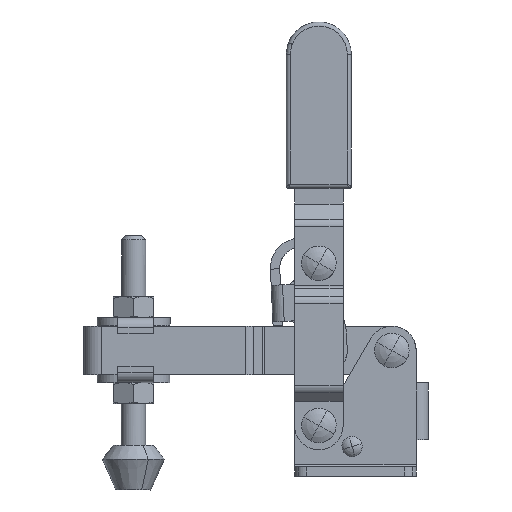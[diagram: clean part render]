
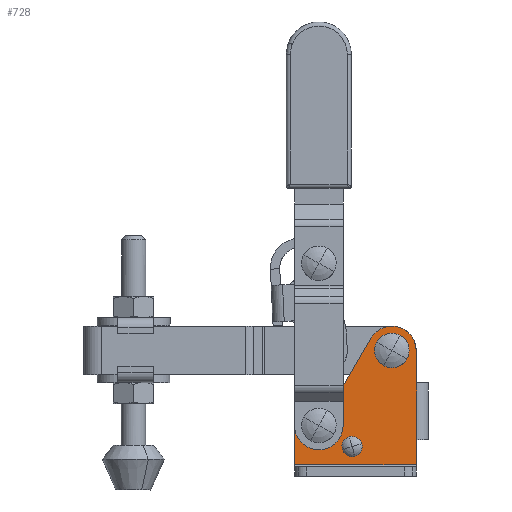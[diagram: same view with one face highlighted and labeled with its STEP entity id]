
A CAD part, left-side view. The second image highlights one B-rep face of the part: STEP entity #728.
In plain terms, the highlighted planar face has unit normal (-1, 0, 0).
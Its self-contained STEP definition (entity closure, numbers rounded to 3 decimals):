
#413=AXIS2_PLACEMENT_3D('Circle Axis2P3D',#411,#412,$) ;
#461=AXIS2_PLACEMENT_3D('Circle Axis2P3D',#459,#460,$) ;
#509=AXIS2_PLACEMENT_3D('Circle Axis2P3D',#507,#508,$) ;
#684=AXIS2_PLACEMENT_3D('Plane Axis2P3D',#681,#682,#683) ;
#712=AXIS2_PLACEMENT_3D('Circle Axis2P3D',#710,#711,$) ;
#721=AXIS2_PLACEMENT_3D('Circle Axis2P3D',#719,#720,$) ;
#294=CARTESIAN_POINT('Line Origine',(-2.3,-0.1,9.)) ;
#298=CARTESIAN_POINT('Vertex',(-2.3,0.,9.)) ;
#300=CARTESIAN_POINT('Vertex',(-2.3,-0.2,9.)) ;
#329=CARTESIAN_POINT('Vertex',(-2.3,0.,2.8)) ;
#332=CARTESIAN_POINT('Line Origine',(-2.3,0.,5.9)) ;
#380=CARTESIAN_POINT('Line Origine',(-2.3,30.,7.65)) ;
#384=CARTESIAN_POINT('Vertex',(-2.3,30.,12.5)) ;
#386=CARTESIAN_POINT('Vertex',(-2.3,30.,2.8)) ;
#411=CARTESIAN_POINT('Axis2P3D Location',(-2.3,24.,12.5)) ;
#415=CARTESIAN_POINT('Vertex',(-2.3,24.,18.5)) ;
#435=CARTESIAN_POINT('Line Origine',(-2.3,22.65,18.5)) ;
#439=CARTESIAN_POINT('Vertex',(-2.3,21.3,18.5)) ;
#459=CARTESIAN_POINT('Axis2P3D Location',(-2.3,21.3,20.5)) ;
#463=CARTESIAN_POINT('Vertex',(-2.3,19.568,19.5)) ;
#483=CARTESIAN_POINT('Line Origine',(-2.3,15.382,26.75)) ;
#487=CARTESIAN_POINT('Vertex',(-2.3,11.196,34.)) ;
#507=CARTESIAN_POINT('Axis2P3D Location',(-2.3,6.,31.)) ;
#511=CARTESIAN_POINT('Vertex',(-2.3,0.,31.)) ;
#531=CARTESIAN_POINT('Line Origine',(-2.3,0.,27.)) ;
#535=CARTESIAN_POINT('Vertex',(-2.3,0.,23.)) ;
#559=CARTESIAN_POINT('Vertex',(-2.3,-0.2,23.)) ;
#562=CARTESIAN_POINT('Line Origine',(-2.3,-0.1,23.)) ;
#681=CARTESIAN_POINT('Axis2P3D Location',(-2.3,0.,0.)) ;
#686=CARTESIAN_POINT('Line Origine',(-2.3,15.,2.8)) ;
#691=CARTESIAN_POINT('Line Origine',(-2.3,-0.2,16.)) ;
#710=CARTESIAN_POINT('Axis2P3D Location',(-2.3,15.8,7.3)) ;
#714=CARTESIAN_POINT('Vertex',(-2.3,15.096,4.901)) ;
#716=CARTESIAN_POINT('Vertex',(-2.3,16.504,9.699)) ;
#719=CARTESIAN_POINT('Axis2P3D Location',(-2.3,15.8,7.3)) ;
#295=DIRECTION('Vector Direction',(0.,1.,0.)) ;
#333=DIRECTION('Vector Direction',(0.,0.,1.)) ;
#381=DIRECTION('Vector Direction',(0.,0.,1.)) ;
#412=DIRECTION('Axis2P3D Direction',(1.,0.,0.)) ;
#436=DIRECTION('Vector Direction',(0.,1.,0.)) ;
#460=DIRECTION('Axis2P3D Direction',(1.,0.,0.)) ;
#484=DIRECTION('Vector Direction',(0.,0.5,-0.866)) ;
#508=DIRECTION('Axis2P3D Direction',(1.,0.,-0.)) ;
#532=DIRECTION('Vector Direction',(0.,0.,1.)) ;
#563=DIRECTION('Vector Direction',(0.,1.,0.)) ;
#682=DIRECTION('Axis2P3D Direction',(1.,0.,0.)) ;
#683=DIRECTION('Axis2P3D XDirection',(0.,1.,0.)) ;
#687=DIRECTION('Vector Direction',(0.,1.,0.)) ;
#692=DIRECTION('Vector Direction',(0.,0.,1.)) ;
#711=DIRECTION('Axis2P3D Direction',(1.,0.,0.)) ;
#720=DIRECTION('Axis2P3D Direction',(1.,0.,0.)) ;
#296=VECTOR('Line Direction',#295,1.) ;
#334=VECTOR('Line Direction',#333,1.) ;
#382=VECTOR('Line Direction',#381,1.) ;
#437=VECTOR('Line Direction',#436,1.) ;
#485=VECTOR('Line Direction',#484,1.) ;
#533=VECTOR('Line Direction',#532,1.) ;
#564=VECTOR('Line Direction',#563,1.) ;
#688=VECTOR('Line Direction',#687,1.) ;
#693=VECTOR('Line Direction',#692,1.) ;
#697=ORIENTED_EDGE('',*,*,#566,.T.) ;
#698=ORIENTED_EDGE('',*,*,#537,.T.) ;
#699=ORIENTED_EDGE('',*,*,#513,.F.) ;
#700=ORIENTED_EDGE('',*,*,#489,.T.) ;
#701=ORIENTED_EDGE('',*,*,#465,.T.) ;
#702=ORIENTED_EDGE('',*,*,#441,.T.) ;
#703=ORIENTED_EDGE('',*,*,#417,.F.) ;
#704=ORIENTED_EDGE('',*,*,#388,.T.) ;
#705=ORIENTED_EDGE('',*,*,#690,.T.) ;
#706=ORIENTED_EDGE('',*,*,#336,.T.) ;
#707=ORIENTED_EDGE('',*,*,#302,.T.) ;
#708=ORIENTED_EDGE('',*,*,#695,.F.) ;
#725=ORIENTED_EDGE('',*,*,#718,.T.) ;
#726=ORIENTED_EDGE('',*,*,#723,.T.) ;
#727=FACE_BOUND('',#724,.T.) ;
#728=ADVANCED_FACE('Mnifold Brep',(#709,#727),#685,.F.) ;
#414=CIRCLE('generated circle',#413,6.) ;
#462=CIRCLE('generated circle',#461,2.) ;
#510=CIRCLE('generated circle',#509,6.) ;
#713=CIRCLE('generated circle',#712,2.5) ;
#722=CIRCLE('generated circle',#721,2.5) ;
#302=EDGE_CURVE('',#299,#301,#297,.F.) ;
#336=EDGE_CURVE('',#330,#299,#335,.T.) ;
#388=EDGE_CURVE('',#385,#387,#383,.F.) ;
#417=EDGE_CURVE('',#385,#416,#414,.T.) ;
#441=EDGE_CURVE('',#440,#416,#438,.T.) ;
#465=EDGE_CURVE('',#464,#440,#462,.T.) ;
#489=EDGE_CURVE('',#488,#464,#486,.T.) ;
#513=EDGE_CURVE('',#488,#512,#510,.T.) ;
#537=EDGE_CURVE('',#536,#512,#534,.T.) ;
#566=EDGE_CURVE('',#560,#536,#565,.T.) ;
#690=EDGE_CURVE('',#387,#330,#689,.F.) ;
#695=EDGE_CURVE('',#560,#301,#694,.F.) ;
#718=EDGE_CURVE('',#715,#717,#713,.T.) ;
#723=EDGE_CURVE('',#717,#715,#722,.T.) ;
#696=EDGE_LOOP('',(#697,#698,#699,#700,#701,#702,#703,#704,#705,#706,#707,#708)) ;
#724=EDGE_LOOP('',(#725,#726)) ;
#709=FACE_OUTER_BOUND('',#696,.T.) ;
#297=LINE('Line',#294,#296) ;
#335=LINE('Line',#332,#334) ;
#383=LINE('Line',#380,#382) ;
#438=LINE('Line',#435,#437) ;
#486=LINE('Line',#483,#485) ;
#534=LINE('Line',#531,#533) ;
#565=LINE('Line',#562,#564) ;
#689=LINE('Line',#686,#688) ;
#694=LINE('Line',#691,#693) ;
#685=PLANE('Plane',#684) ;
#299=VERTEX_POINT('',#298) ;
#301=VERTEX_POINT('',#300) ;
#330=VERTEX_POINT('',#329) ;
#385=VERTEX_POINT('',#384) ;
#387=VERTEX_POINT('',#386) ;
#416=VERTEX_POINT('',#415) ;
#440=VERTEX_POINT('',#439) ;
#464=VERTEX_POINT('',#463) ;
#488=VERTEX_POINT('',#487) ;
#512=VERTEX_POINT('',#511) ;
#536=VERTEX_POINT('',#535) ;
#560=VERTEX_POINT('',#559) ;
#715=VERTEX_POINT('',#714) ;
#717=VERTEX_POINT('',#716) ;
